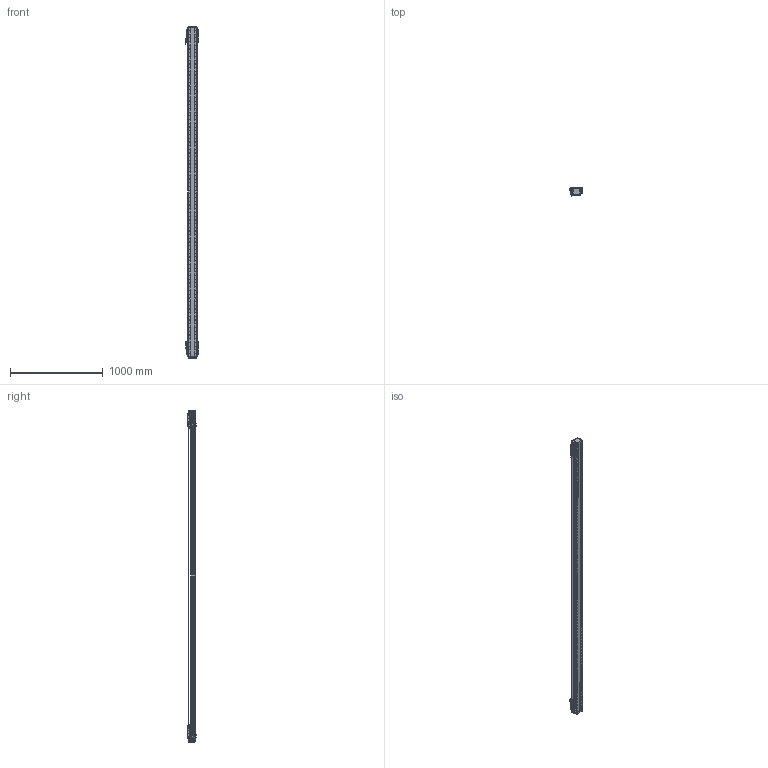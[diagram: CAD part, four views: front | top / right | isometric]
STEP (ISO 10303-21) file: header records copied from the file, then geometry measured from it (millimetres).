
FILE_DESCRIPTION (( 'STEP AP203' ), '1' );
FILE_NAME ('DA-B95-2-B15-T3200-C010-0.2 直线电机.STEP', '2023-05-06T06:46:52', ( '微软用户' ), ( '微软中国' ), 'SwSTEP 2.0', 'SolidWorks 2019', '' );
FILE_SCHEMA (( 'CONFIG_CONTROL_DESIGN' ));
Length unit declared in the file: millimetre
Products named in the file (34): 66245-BU95-V-00 珨极趙賑雄怢啣; IU-BU95-L-00 菁釱_L3540; 复件 66245-BU95-HT-V-01 滑动台板^66245-BU95-V-00 一体化滑动台板; 复件 六角薄螺母 M3^DA-A95-B15-T-C010-0.2-N 直线电机_GB_FASTENER_NUT_STNAB M3-C; 葩璃 DA95-GT-T-00^IU-BU95-L 菁釱絳寢_DA95; 复件 DA95-HK-GT-00 滑块钢轨^66245-BU95-V-00 一体化滑动台板; IU-BU95-L 菁釱絳寢; 复件 DA95-MFP-01 密封片^66245-BU95-V 滚珠滑台; 复件 DA95-DB-00  挡板^66245-BU95-V 滚珠滑台; 葩璃 BKM015-W060-C1-TP-DA-0.2^DA-A95-B15-T-C010-0.2-N 眻盄萇儂; 复件 复件 18252-0001-002-00 钢带垫块^DA-A95-B15-T-C010-0.2-N 直线电机; 复件 DA95-DK-00 挡块^66245-BU95-V 滚珠滑台; 66245-BU95-V 幗紩賑怢; 复件 复件 18252-0001-004-00 钢带端盖^DA-A95-B15-T-C010-0.2-N 直线电机; LMDK-2-R001-V5-L02-C1-F00，0.2M 读数头^DA-A95-B15-T-C010-0.2-N 直线电机_DMA-010-0.2; 葩璃 BKMA01-W060-TRL^DA-A95-B15-T-C010-0.2-N 眻盄萇儂; 葩璃 DA95-B15-DP--B-00 菜えB^66245-BU95-V 幗紩賑怢; 复件 DA95-B15 钢带盖板^DA-A95-B15-T-C010-0.2-N 直线电机; 复件 DKW-HXJ-JY-00 缓冲橡胶^DA-A95-B15-T-C010-0.2-N 直线电机; 复件 复件 18252-0001-003-00 钢带拉块^DA-A95-B15-T-C010-0.2-N 直线电机; 复件 DKW-KGZ-ZJ-00 中间光电开关支架^DA-A95-B15-T-C010-0.2-N 直线电机; DA-A95-GYP-00 光电感应片^DA-A95-B15-T-C010-0.2-N 直线电机; DA95-HXJ-00 缓冲橡胶^DA-A95-B15-T-C010-0.2-N 直线电机; PM-T45 光电开关^DA-A95-B15-T-C010-0.2-N 直线电机; B15 XD-U-02L ｴﾅﾕ､ｳﾟ^DA-A95-B15-T-C010-0.2-N ﾖｱﾏﾟｵ扈銈XD-U-02L; 复件 DA95-B15-YB-B-00 压板B^66245-BU95-V 滚珠滑台; 复件 DKW-GYP-ZJ-00 中间光电感应片^DA-A95-B15-T-C010-0.2-N 直线电机; 复件 DA95-B15-YB-A-00 压板A^66245-BU95-V 滚珠滑台; 葩璃 DA95-B15-DP-A-00 菜えA^66245-BU95-V 幗紩賑怢; 复件 纯铜油杯 6x6mm^66245-BU95-V 滚珠滑台; DA-B95-2-B15-T3200-C010-0.2 眻盄萇儂; 葩璃 PM-Y45^DA-A95-B15-T-C010-0.2-N 眻盄萇儂
Assembly tree (80 placements, depth 4):
  DA-B95-2-B15-T3200-C010-0.2 眻盄萇儂
    IU-BU95-L 菁釱絳寢
      IU-BU95-L-00 菁釱_L3540
      葩璃 DA95-GT-T-00^IU-BU95-L 菁釱絳寢_DA95  x2
    66245-BU95-V 幗紩賑怢
      66245-BU95-V-00 珨极趙賑雄怢啣
        复件 66245-BU95-HT-V-01 滑动台板^66245-BU95-V-00 一体化滑动台板
        复件 DA95-HK-GT-00 滑块钢轨^66245-BU95-V-00 一体化滑动台板  x2
      葩璃 DA95-B15-DP-A-00 菜えA^66245-BU95-V 幗紩賑怢
      复件 DA95-B15-YB-A-00 压板A^66245-BU95-V 滚珠滑台
      复件 DA95-B15-YB-B-00 压板B^66245-BU95-V 滚珠滑台
      复件 DA95-DB-00  挡板^66245-BU95-V 滚珠滑台  x4
      复件 DA95-DK-00 挡块^66245-BU95-V 滚珠滑台  x2
      复件 DA95-MFP-01 密封片^66245-BU95-V 滚珠滑台  x4
      复件 纯铜油杯 6x6mm^66245-BU95-V 滚珠滑台  x2
      葩璃 DA95-B15-DP--B-00 菜えB^66245-BU95-V 幗紩賑怢
    66245-BU95-V 幗紩賑怢
      66245-BU95-V-00 珨极趙賑雄怢啣
        复件 66245-BU95-HT-V-01 滑动台板^66245-BU95-V-00 一体化滑动台板
        复件 DA95-HK-GT-00 滑块钢轨^66245-BU95-V-00 一体化滑动台板  x2
      葩璃 DA95-B15-DP-A-00 菜えA^66245-BU95-V 幗紩賑怢
      复件 DA95-B15-YB-A-00 压板A^66245-BU95-V 滚珠滑台
      复件 DA95-B15-YB-B-00 压板B^66245-BU95-V 滚珠滑台
      复件 DA95-DB-00  挡板^66245-BU95-V 滚珠滑台  x4
      复件 DA95-DK-00 挡块^66245-BU95-V 滚珠滑台  x2
      复件 DA95-MFP-01 密封片^66245-BU95-V 滚珠滑台  x4
      复件 纯铜油杯 6x6mm^66245-BU95-V 滚珠滑台  x2
      葩璃 DA95-B15-DP--B-00 菜えB^66245-BU95-V 幗紩賑怢
    DA-A95-GYP-00 光电感应片^DA-A95-B15-T-C010-0.2-N 直线电机  x2
    LMDK-2-R001-V5-L02-C1-F00，0.2M 读数头^DA-A95-B15-T-C010-0.2-N 直线电机_DMA-010-0.2  x2
    复件 DKW-KGZ-ZJ-00 中间光电开关支架^DA-A95-B15-T-C010-0.2-N 直线电机
    葩璃 PM-Y45^DA-A95-B15-T-C010-0.2-N 眻盄萇儂
    复件 DKW-GYP-ZJ-00 中间光电感应片^DA-A95-B15-T-C010-0.2-N 直线电机
    葩璃 BKM015-W060-C1-TP-DA-0.2^DA-A95-B15-T-C010-0.2-N 眻盄萇儂  x2
    复件 DKW-HXJ-JY-00 缓冲橡胶^DA-A95-B15-T-C010-0.2-N 直线电机  x2
    PM-T45 光电开关^DA-A95-B15-T-C010-0.2-N 直线电机  x4
    B15 XD-U-02L ｴﾅﾕ､ｳﾟ^DA-A95-B15-T-C010-0.2-N ﾖｱﾏﾟｵ扈銈XD-U-02L
    复件 复件 18252-0001-003-00 钢带拉块^DA-A95-B15-T-C010-0.2-N 直线电机  x2
    复件 复件 18252-0001-002-00 钢带垫块^DA-A95-B15-T-C010-0.2-N 直线电机  x2
    复件 复件 18252-0001-004-00 钢带端盖^DA-A95-B15-T-C010-0.2-N 直线电机  x2
    复件 DA95-B15 钢带盖板^DA-A95-B15-T-C010-0.2-N 直线电机
    DA95-HXJ-00 缓冲橡胶^DA-A95-B15-T-C010-0.2-N 直线电机  x4
    葩璃 BKMA01-W060-TRL^DA-A95-B15-T-C010-0.2-N 眻盄萇儂
    复件 六角薄螺母 M3^DA-A95-B15-T-C010-0.2-N 直线电机_GB_FASTENER_NUT_STNAB M3-C  x6
Bounding box: 145.4 x 90.2 x 3576 mm (x, y, z)
Volume: 11098984.1 mm3; surface area: 3719836 mm2
Topology: 75 solids, 93 shells, 4652 faces, 13492 edges, 8607 vertices
Faces by surface type: cylinder 2501, plane 1619, cone 464, torus 64, sphere 4
Entity records: 123574 total; most frequent: CARTESIAN_POINT 34304, ORIENTED_EDGE 18342, DIRECTION 17314, EDGE_CURVE 9171, AXIS2_PLACEMENT_3D 6633, VERTEX_POINT 6009, VECTOR 4048, LINE 4048
